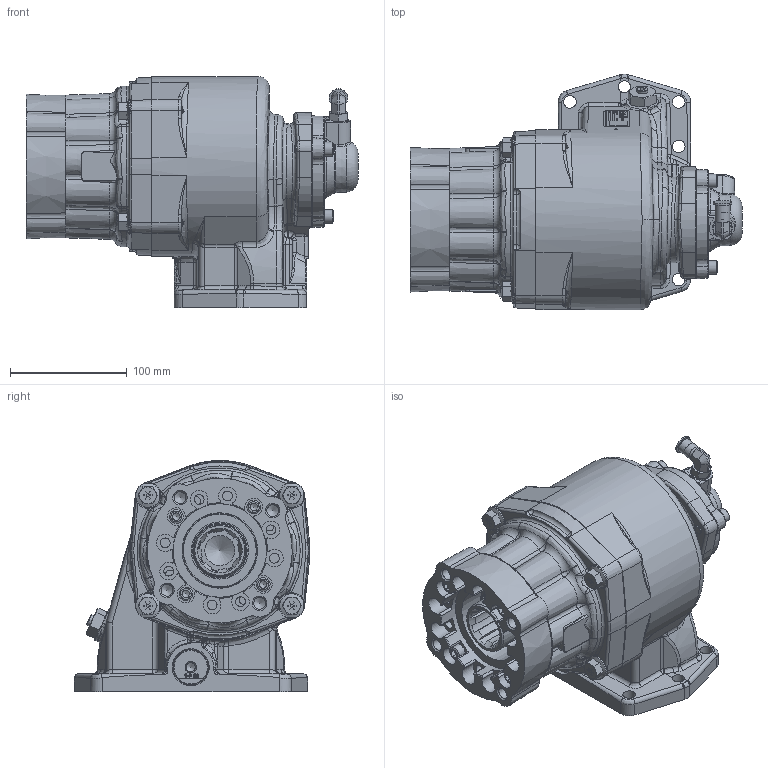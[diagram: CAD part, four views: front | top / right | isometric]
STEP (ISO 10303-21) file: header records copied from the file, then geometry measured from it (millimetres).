
FILE_DESCRIPTION(/* description */ ('PTO ASSEMBLY-878'),/* implementation_level */ '2;1');
FILE_NAME(/* name */ 'C:\Users\mba7719\Desktop\878X-M3RY.stp',/* time_stamp */ '2024-01-16T14:26:40-06:00',/* author */ ('mba7719'),/* organization */ (''),/* preprocessor_version */ 'ST-DEVELOPER v18',/* originating_system */ 'Autodesk Inventor 2020',/* authorisation */ '');
FILE_SCHEMA (('AUTOMOTIVE_DESIGN { 1 0 10303 214 3 1 1 }'));
Products named in the file (22): 878-01 3 arrangement; 1-P-817; 22-P-112; 28-P-329; 9-P-99; 28-P-42; 378452-7; 378447-6; 379486; 379231; 379242; 379555; 21-P-883; 28-P-267; 21-P-771; 3-P-1071; 21-P-690; 379564-2; 380563-14; 35-P-101; 68-P-51-1; 378447-8
Assembly tree (30 placements, depth 2):
  878-01 3 arrangement
    1-P-817
    22-P-112
    28-P-329
    9-P-99
    28-P-42
    378452-7
    378447-6  x3
    379486
    379231
    379242
    379555
    380563-14  x4
    21-P-883
    28-P-267
    21-P-771
    3-P-1071
    21-P-690
    379564-2
    378447-8  x5
    35-P-101
    68-P-51-1
Bounding box: 283.85 x 201.72 x 197.5 mm (x, y, z)
Volume: 2157540.6 mm3; surface area: 523337.6 mm2
Topology: 31 solids, 31 shells, 6320 faces, 16006 edges, 9963 vertices
Faces by surface type: plane 2321, cylinder 1673, bspline 1551, torus 429, cone 318, sphere 28
Full cylindrical faces by diameter (mm): 0.711 x1, 0.787 x1, 0.813 x1, 2.184 x2, 2.362 x1, 2.769 x2, 3.175 x11, 3.962 x1, 4.191 x1, 4.318 x1, 4.699 x2, 4.978 x1, 6.35 x3, 6.401 x15, 6.528 x1, 7.137 x1, 7.798 x5, 7.836 x14, 7.95 x2, 8.331 x12, 8.611 x1, 8.712 x3, 8.75 x3, 9.144 x2, 9.525 x12, 9.728 x1, 10.109 x4, 10.312 x6, 10.338 x4, 10.719 x8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
Entity records: 233165 total; most frequent: CARTESIAN_POINT 91869, ORIENTED_EDGE 30426, DIRECTION 24660, EDGE_CURVE 15213, VERTEX_POINT 9501, AXIS2_PLACEMENT_3D 8525, LINE 7610, VECTOR 7610
